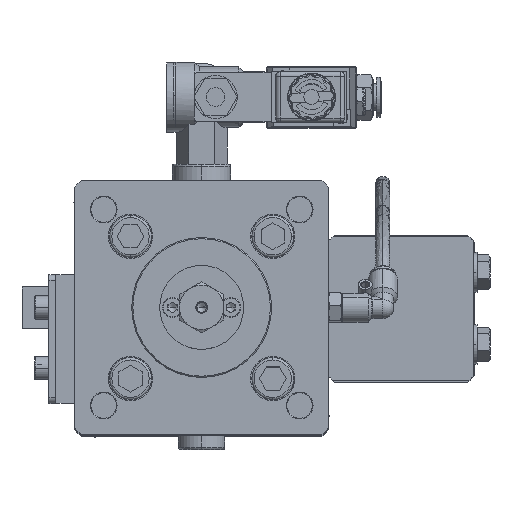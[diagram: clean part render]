
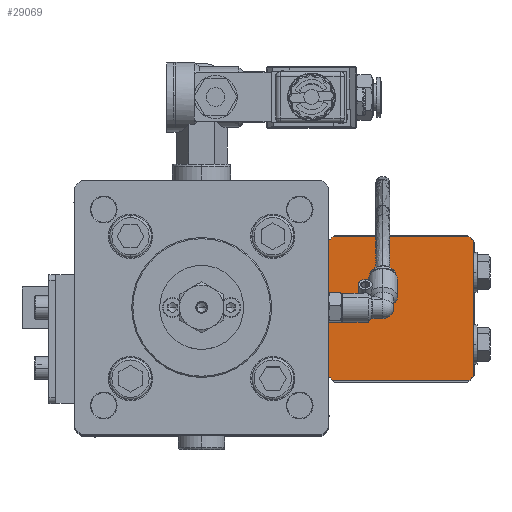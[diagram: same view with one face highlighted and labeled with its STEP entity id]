
A CAD part, top view. The second image highlights one B-rep face of the part: STEP entity #29069.
In plain terms, the highlighted planar face has unit normal (0, 0, 1) as drawn and (0, -1, 0) by its records, which use the part's own axes.
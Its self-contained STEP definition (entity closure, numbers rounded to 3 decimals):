
#1357 = DIRECTION ( 'NONE',  ( 0., -1., 0. ) ) ;
#2298 = DIRECTION ( 'NONE',  ( -1., 0., 0. ) ) ;
#2690 = AXIS2_PLACEMENT_3D ( 'NONE', #51140, #1357, #59471 ) ;
#3210 = LINE ( 'NONE', #37753, #64335 ) ;
#5479 = CARTESIAN_POINT ( 'NONE',  ( -31., 0., 31. ) ) ;
#8812 = EDGE_CURVE ( 'NONE', #81496, #59772, #14347, .T. ) ;
#11710 = EDGE_LOOP ( 'NONE', ( #35811, #93333, #25590, #14553, #55947, #80614, #70293, #96175 ) ) ;
#14347 = CIRCLE ( 'NONE', #101117, 42.5 ) ;
#14553 = ORIENTED_EDGE ( 'NONE', *, *, #63766, .F. ) ;
#15865 = DIRECTION ( 'NONE',  ( 0., -1., 0. ) ) ;
#16074 = AXIS2_PLACEMENT_3D ( 'NONE', #37789, #96013, #46157 ) ;
#17539 = CARTESIAN_POINT ( 'NONE',  ( 0., 0., 0. ) ) ;
#18651 = LINE ( 'NONE', #43664, #74601 ) ;
#19026 = CARTESIAN_POINT ( 'NONE',  ( 29.073, 0., 31. ) ) ;
#20649 = EDGE_CURVE ( 'NONE', #81496, #63781, #79597, .T. ) ;
#22895 = CARTESIAN_POINT ( 'NONE',  ( -31., 0., -29.073 ) ) ;
#25590 = ORIENTED_EDGE ( 'NONE', *, *, #105817, .T. ) ;
#28350 = CIRCLE ( 'NONE', #16074, 42.5 ) ;
#29069 = ADVANCED_FACE ( 'NONE', ( #69573 ), #92418, .F. ) ;
#33287 = CIRCLE ( 'NONE', #67597, 42.5 ) ;
#34991 = CARTESIAN_POINT ( 'NONE',  ( -31., 0., 29.073 ) ) ;
#35811 = ORIENTED_EDGE ( 'NONE', *, *, #8812, .T. ) ;
#37753 = CARTESIAN_POINT ( 'NONE',  ( 31., 0., -31. ) ) ;
#37789 = CARTESIAN_POINT ( 'NONE',  ( 0., 0., 0. ) ) ;
#42525 = DIRECTION ( 'NONE',  ( 0., 1., 0. ) ) ;
#43664 = CARTESIAN_POINT ( 'NONE',  ( -31., 0., -31. ) ) ;
#46118 = DIRECTION ( 'NONE',  ( 0., 0., -1. ) ) ;
#46157 = DIRECTION ( 'NONE',  ( 0., 0., 1. ) ) ;
#48929 = CARTESIAN_POINT ( 'NONE',  ( 0., 0., 0. ) ) ;
#50326 = VECTOR ( 'NONE', #105424, 1000. ) ;
#50862 = VERTEX_POINT ( 'NONE', #74525 ) ;
#51140 = CARTESIAN_POINT ( 'NONE',  ( 0., 0., 0. ) ) ;
#54808 = CARTESIAN_POINT ( 'NONE',  ( 31., 0., -29.073 ) ) ;
#55947 = ORIENTED_EDGE ( 'NONE', *, *, #103904, .T. ) ;
#57276 = DIRECTION ( 'NONE',  ( 0., 0., 1. ) ) ;
#59471 = DIRECTION ( 'NONE',  ( 0., 0., 1. ) ) ;
#59772 = VERTEX_POINT ( 'NONE', #34991 ) ;
#59983 = VERTEX_POINT ( 'NONE', #54808 ) ;
#60047 = EDGE_CURVE ( 'NONE', #74250, #59772, #72462, .T. ) ;
#60587 = EDGE_CURVE ( 'NONE', #50862, #63781, #33287, .T. ) ;
#63576 = CARTESIAN_POINT ( 'NONE',  ( -31., 0., -31. ) ) ;
#63648 = DIRECTION ( 'NONE',  ( 1., 0., 0. ) ) ;
#63766 = EDGE_CURVE ( 'NONE', #64919, #76222, #18651, .T. ) ;
#63781 = VERTEX_POINT ( 'NONE', #19026 ) ;
#64335 = VECTOR ( 'NONE', #46118, 1000. ) ;
#64919 = VERTEX_POINT ( 'NONE', #69681 ) ;
#65673 = CARTESIAN_POINT ( 'NONE',  ( 0., 0., 0. ) ) ;
#67597 = AXIS2_PLACEMENT_3D ( 'NONE', #65673, #15865, #74072 ) ;
#69573 = FACE_OUTER_BOUND ( 'NONE', #11710, .T. ) ;
#69681 = CARTESIAN_POINT ( 'NONE',  ( 29.073, 0., -31. ) ) ;
#70293 = ORIENTED_EDGE ( 'NONE', *, *, #60587, .T. ) ;
#72462 = LINE ( 'NONE', #63576, #50326 ) ;
#74072 = DIRECTION ( 'NONE',  ( 0., 0., 1. ) ) ;
#74250 = VERTEX_POINT ( 'NONE', #22895 ) ;
#74525 = CARTESIAN_POINT ( 'NONE',  ( 31., 0., 29.073 ) ) ;
#74601 = VECTOR ( 'NONE', #2298, 1000. ) ;
#76222 = VERTEX_POINT ( 'NONE', #102787 ) ;
#76986 = VECTOR ( 'NONE', #63648, 1000. ) ;
#77388 = EDGE_CURVE ( 'NONE', #50862, #59983, #3210, .T. ) ;
#77681 = CARTESIAN_POINT ( 'NONE',  ( -29.073, 0., 31. ) ) ;
#79597 = LINE ( 'NONE', #5479, #76986 ) ;
#80614 = ORIENTED_EDGE ( 'NONE', *, *, #77388, .F. ) ;
#81496 = VERTEX_POINT ( 'NONE', #77681 ) ;
#85792 = AXIS2_PLACEMENT_3D ( 'NONE', #17539, #42525, #100791 ) ;
#89736 = CIRCLE ( 'NONE', #2690, 42.5 ) ;
#92418 = PLANE ( 'NONE',  #85792 ) ;
#93333 = ORIENTED_EDGE ( 'NONE', *, *, #60047, .F. ) ;
#96013 = DIRECTION ( 'NONE',  ( 0., -1., 0. ) ) ;
#96175 = ORIENTED_EDGE ( 'NONE', *, *, #20649, .F. ) ;
#100791 = DIRECTION ( 'NONE',  ( 0., 0., 1. ) ) ;
#101117 = AXIS2_PLACEMENT_3D ( 'NONE', #48929, #107163, #57276 ) ;
#102787 = CARTESIAN_POINT ( 'NONE',  ( -29.073, 0., -31. ) ) ;
#103904 = EDGE_CURVE ( 'NONE', #64919, #59983, #89736, .T. ) ;
#105424 = DIRECTION ( 'NONE',  ( 0., 0., 1. ) ) ;
#105817 = EDGE_CURVE ( 'NONE', #74250, #76222, #28350, .T. ) ;
#107163 = DIRECTION ( 'NONE',  ( 0., -1., 0. ) ) ;
